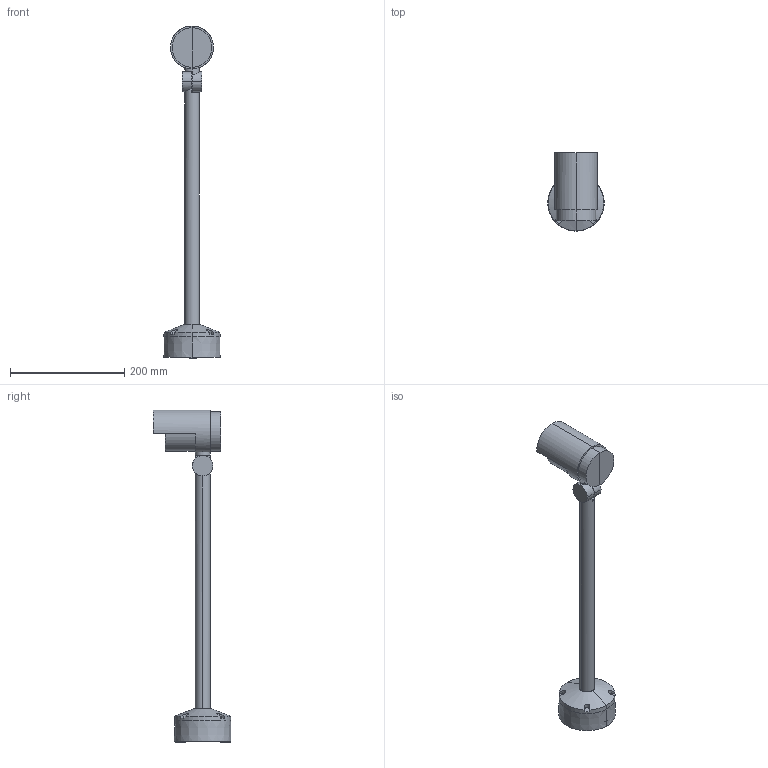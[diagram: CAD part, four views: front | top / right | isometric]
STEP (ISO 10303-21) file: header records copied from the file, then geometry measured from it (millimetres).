
FILE_DESCRIPTION(/* description */ (''),/* implementation_level */ '2;1');
FILE_NAME(/* name */ 'C:\Users\francosartori\Documents\Modelos\01_Indoor\2_FOC\03_Publicación\70157.stp',/* time_stamp */ '2020-05-20T12:51:49+02:00',/* author */ ('FrancoSartori'),/* organization */ (''),/* preprocessor_version */ 'ST-DEVELOPER v18.1',/* originating_system */ 'AutoCAD Mechanical',/* authorisation */ '');
FILE_SCHEMA (('AUTOMOTIVE_DESIGN { 1 0 10303 214 3 1 1 }'));
Length unit declared in the file: millimetre
Products named in the file (2): Product; 70157_FOC - FOC-445238-Export
Assembly tree (1 placements, depth 2):
  Product
    70157_FOC - FOC-445238-Export
Bounding box: 98.63 x 135.81 x 580 mm (x, y, z)
Volume: 582503.7 mm3; surface area: 170402.3 mm2
Topology: 9 solids, 9 shells, 168 faces, 376 edges, 218 vertices
Faces by surface type: plane 80, cylinder 58, cone 28, torus 2
Entity records: 5054 total; most frequent: CARTESIAN_POINT 1201, DIRECTION 866, ORIENTED_EDGE 752, EDGE_CURVE 376, AXIS2_PLACEMENT_3D 348, VERTEX_POINT 218, EDGE_LOOP 178, CIRCLE 174
